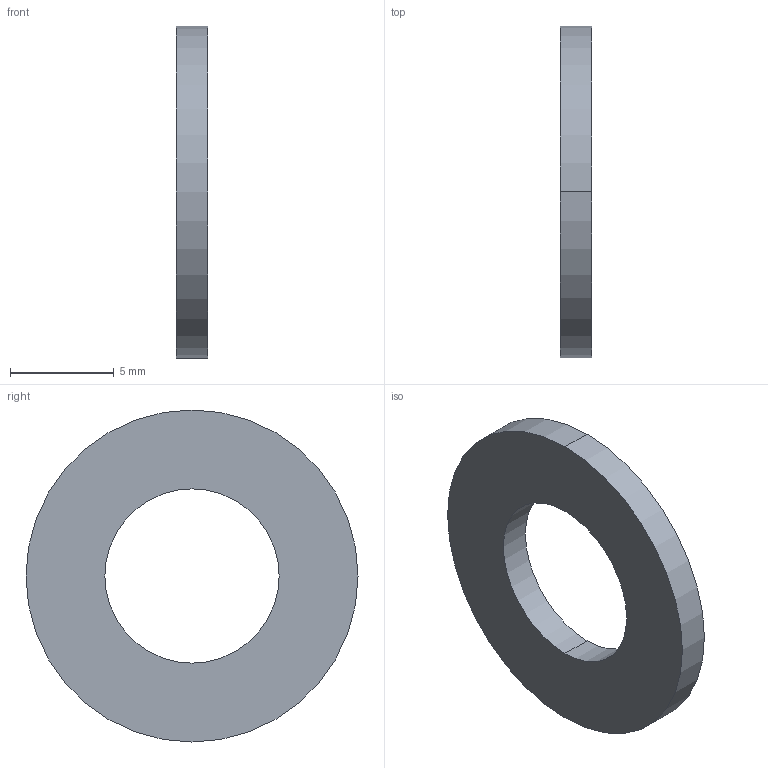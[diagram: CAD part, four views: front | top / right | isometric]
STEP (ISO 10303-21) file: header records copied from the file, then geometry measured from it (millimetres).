
FILE_DESCRIPTION (( 'STEP AP214' ), '1' );
FILE_NAME ('Rondelle_plate38.STEP', '2008-05-19T17:38:23', ( ' ' ), ( ' ' ), 'SwSTEP 2.0', 'SolidWorks 2005143', '' );
FILE_SCHEMA (( 'AUTOMOTIVE_DESIGN' ));
Length unit declared in the file: millimetre
Products named in the file (1): Rondelle_plate38
Bounding box: 1.5 x 16 x 16 mm (x, y, z)
Volume: 218.5 mm3; surface area: 406.3 mm2
Topology: 1 solids, 1 shells, 6 faces, 12 edges, 8 vertices
Faces by surface type: cylinder 4, plane 2
Entity records: 191 total; most frequent: DIRECTION 34, CARTESIAN_POINT 27, ORIENTED_EDGE 24, AXIS2_PLACEMENT_3D 15, EDGE_CURVE 12, CIRCLE 8, EDGE_LOOP 8, VERTEX_POINT 8
